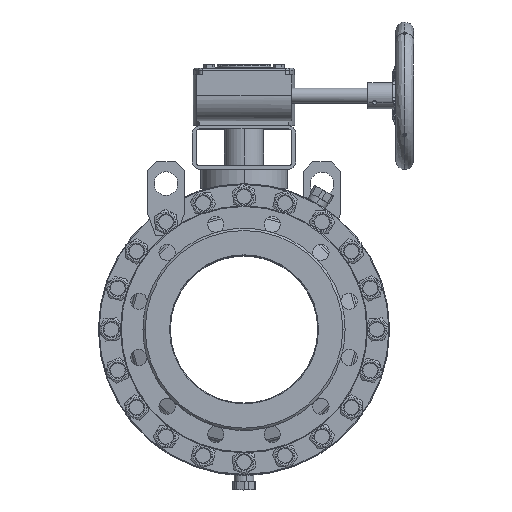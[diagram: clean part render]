
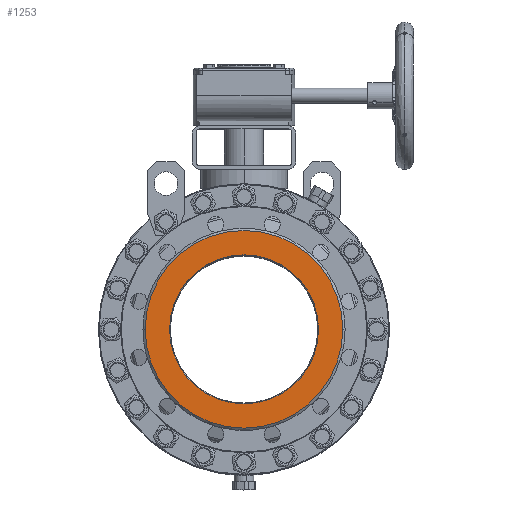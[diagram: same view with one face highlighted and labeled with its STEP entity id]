
A CAD part, top view. The second image highlights one B-rep face of the part: STEP entity #1253.
In plain terms, the highlighted planar face has unit normal (0, 0, 1).
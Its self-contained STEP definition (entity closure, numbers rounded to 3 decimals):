
#1253=ADVANCED_FACE('',(#5233,#5235),#5237,.T.);
#5233=FACE_BOUND('',#5234,.T.);
#5234=EDGE_LOOP('',(#50346,#50347));
#5235=FACE_OUTER_BOUND('',#5236,.T.);
#5236=EDGE_LOOP('',(#50348,#50349));
#5237=PLANE('',#5238);
#5238=AXIS2_PLACEMENT_3D('',#5239,#5240,#5241);
#5239=CARTESIAN_POINT('',(0.,0.,226.));
#5240=DIRECTION('',(0.,0.,1.));
#5241=DIRECTION('',(1.,0.,0.));
#50346=ORIENTED_EDGE('',*,*,#58267,.T.);
#50347=ORIENTED_EDGE('',*,*,#58268,.T.);
#50348=ORIENTED_EDGE('',*,*,#58246,.T.);
#50349=ORIENTED_EDGE('',*,*,#58254,.T.);
#58246=EDGE_CURVE('',#63324,#63322,#63325,.T.);
#58254=EDGE_CURVE('',#63322,#63324,#63333,.T.);
#58267=EDGE_CURVE('',#63348,#63349,#63350,.T.);
#58268=EDGE_CURVE('',#63349,#63348,#63351,.T.);
#63322=VERTEX_POINT('',#73889);
#63324=VERTEX_POINT('',#73893);
#63325=CIRCLE('',#73894,134.);
#63333=CIRCLE('',#73925,134.);
#63348=VERTEX_POINT('',#73975);
#63349=VERTEX_POINT('',#73976);
#63350=CIRCLE('',#73977,101.);
#63351=CIRCLE('',#73981,101.);
#73889=CARTESIAN_POINT('',(-134.,0.,226.));
#73893=CARTESIAN_POINT('',(134.,0.,226.));
#73894=AXIS2_PLACEMENT_3D('',#73895,#73896,#73897);
#73895=CARTESIAN_POINT('',(0.,0.,226.));
#73896=DIRECTION('',(0.,0.,1.));
#73897=DIRECTION('',(1.,0.,0.));
#73925=AXIS2_PLACEMENT_3D('',#73926,#73927,#73928);
#73926=CARTESIAN_POINT('',(0.,0.,226.));
#73927=DIRECTION('',(0.,0.,1.));
#73928=DIRECTION('',(-1.,0.,0.));
#73975=CARTESIAN_POINT('',(101.,0.,226.));
#73976=CARTESIAN_POINT('',(-101.,0.,226.));
#73977=AXIS2_PLACEMENT_3D('',#73978,#73979,#73980);
#73978=CARTESIAN_POINT('',(0.,0.,226.));
#73979=DIRECTION('',(0.,0.,-1.));
#73980=DIRECTION('',(1.,0.,0.));
#73981=AXIS2_PLACEMENT_3D('',#73982,#73983,#73984);
#73982=CARTESIAN_POINT('',(0.,0.,226.));
#73983=DIRECTION('',(0.,0.,-1.));
#73984=DIRECTION('',(-1.,0.,0.));
